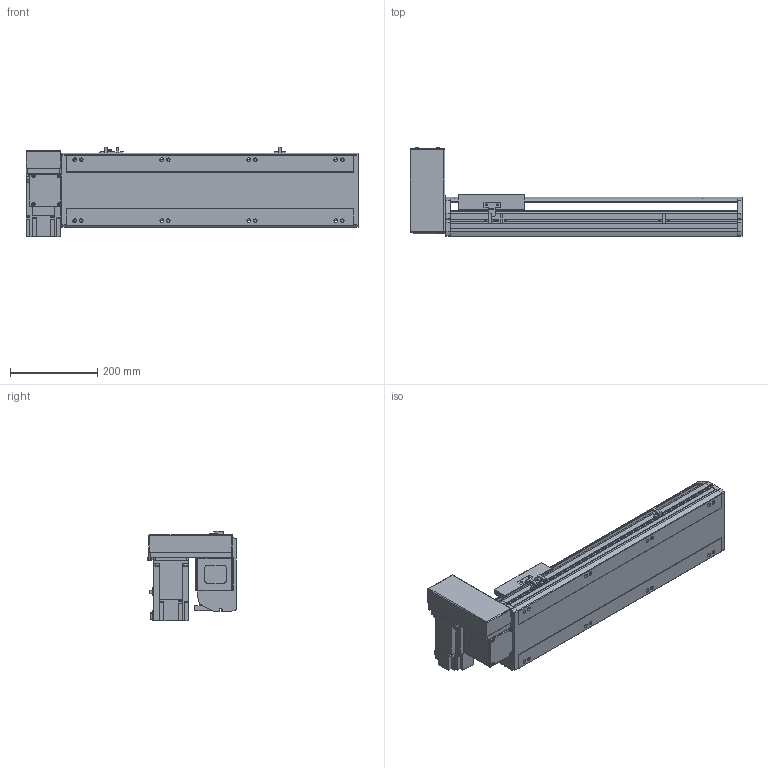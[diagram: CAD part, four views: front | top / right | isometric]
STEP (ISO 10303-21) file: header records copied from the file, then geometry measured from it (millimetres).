
FILE_DESCRIPTION( ( 'STEP AP214' ), '1' );
FILE_NAME( 'x:/temp/worker_5/temp/exporttempdir_3988_109_PNFBa/format_0/PBS170-P40-S400-RU-T75-C1-N(0).stp', '2022-06-08T05:55:49', ( 'License CC BY-ND 4.0' ), ( 'CADENAS' ), ' ', 'PARTsolutions', ' ' );
FILE_SCHEMA( ( 'AUTOMOTIVE_DESIGN { 1 0 10303 214 1 1 1 1 }' ) );
Length unit declared in the file: millimetre
Products named in the file (7): PBS170-P40-S400-RU-T75-C1-N(0); _PBS170-S400()_body; _PBS170T-RU_motors; _T75-p1; _PBS170_sliser; _PBS170_plant; _PBS170_sensor
Assembly tree (8 placements, depth 2):
  PBS170-P40-S400-RU-T75-C1-N(0)
    _PBS170-S400()_body
    _PBS170T-RU_motors
    _T75-p1
    _PBS170_sliser
    _PBS170_plant
    _PBS170_sensor  x3
Bounding box: 763 x 206 x 205.3 mm (x, y, z)
Volume: 6717486 mm3; surface area: 923495.1 mm2
Topology: 8 solids, 8 shells, 1018 faces, 2715 edges, 1770 vertices
Faces by surface type: plane 663, cylinder 307, cone 38, sphere 8, torus 2
Full cylindrical faces by diameter (mm): 3.242 x4, 4 x2, 4.4 x4, 4.5 x6, 4.917 x4, 6 x9, 6.647 x16, 7 x2, 7.5 x4, 8 x8, 8.5 x8, 10 x4, 10.5 x8, 11 x2, 30 x2, 40 x1, 70 x1
Entity records: 37172 total; most frequent: CARTESIAN_POINT 5549, DIRECTION 5020, ORIENTED_EDGE 4788, EDGE_CURVE 2394, AXIS2_PLACEMENT_3D 1717, VERTEX_POINT 1634, LINE 1586, VECTOR 1586
